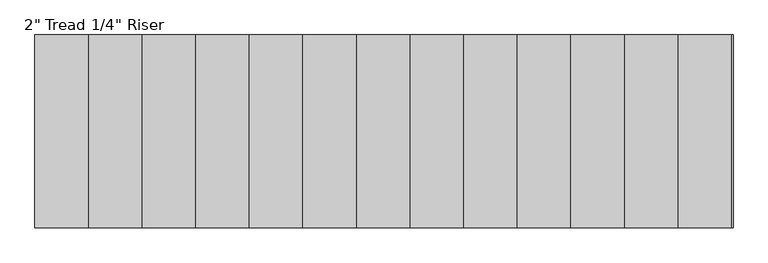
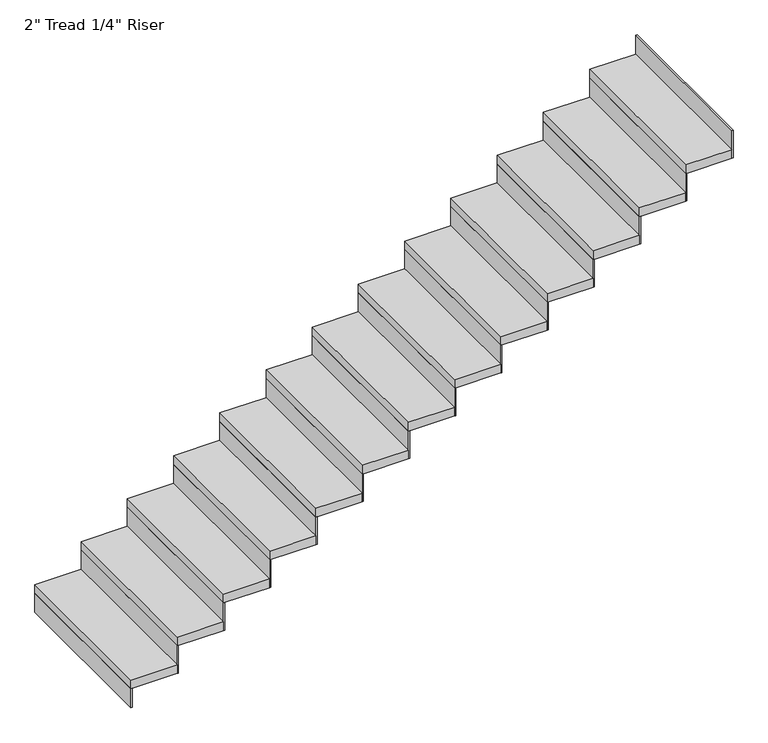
"""IFC4 building model written with IfcOpenShell, lengths in millimetres: stair flight geometry."""

from ifc_helpers import new_model, si_unit, frame, origin, origin_with_axes, place, context, project, spatial, polyline, outline, extrude, source, transform, mapped, element, save


def stair_flight_890952b5(model_context):
    return source(origin(), model_context, "Body", "SweptSolid", [
        extrude(outline(polyline([(85053.1147213, -35524.5173894), (85046.7647213, -35524.5173894), (85046.7647213, -34610.1173894), (85053.1147213, -34610.1173894), (85053.1147213, -35524.5173894)])), origin_with_axes(), (0.0, 0.0, 1.0), 109.6210526),
        extrude(outline(polyline([(85300.7647213, -34610.1173894), (85300.7647213, -35524.5173894), (85046.7647213, -35524.5173894), (85046.7647213, -34610.1173894), (85300.7647213, -34610.1173894)])), frame((0.0, 0.0, 109.6210526), z_axis=(0.0, 0.0, 1.0), x_axis=(1.0, 0.0, 0.0)), (0.0, 0.0, 1.0), 50.8),
        extrude(outline(polyline([(85307.1147213, -35524.5173894), (85300.7647213, -35524.5173894), (85300.7647213, -34610.1173894), (85307.1147213, -34610.1173894), (85307.1147213, -35524.5173894)])), frame((0.0, 0.0, 109.6210526), z_axis=(0.0, 0.0, 1.0), x_axis=(1.0, 0.0, 0.0)), (0.0, 0.0, 1.0), 160.4210526),
        extrude(outline(polyline([(85554.7647213, -34610.1173894), (85554.7647213, -35524.5173894), (85300.7647213, -35524.5173894), (85300.7647213, -34610.1173894), (85554.7647213, -34610.1173894)])), frame((0.0, 0.0, 270.0421053), z_axis=(0.0, 0.0, 1.0), x_axis=(1.0, 0.0, 0.0)), (0.0, 0.0, 1.0), 50.8),
        extrude(outline(polyline([(85561.1147213, -35524.5173894), (85554.7647213, -35524.5173894), (85554.7647213, -34610.1173894), (85561.1147213, -34610.1173894), (85561.1147213, -35524.5173894)])), frame((0.0, 0.0, 270.0421053), z_axis=(0.0, 0.0, 1.0), x_axis=(1.0, 0.0, 0.0)), (0.0, 0.0, 1.0), 160.4210526),
        extrude(outline(polyline([(85808.7647213, -34610.1173894), (85808.7647213, -35524.5173894), (85554.7647213, -35524.5173894), (85554.7647213, -34610.1173894), (85808.7647213, -34610.1173894)])), frame((0.0, 0.0, 430.4631579), z_axis=(0.0, 0.0, 1.0), x_axis=(1.0, 0.0, 0.0)), (0.0, 0.0, 1.0), 50.8),
        extrude(outline(polyline([(85815.1147213, -35524.5173894), (85808.7647213, -35524.5173894), (85808.7647213, -34610.1173894), (85815.1147213, -34610.1173894), (85815.1147213, -35524.5173894)])), frame((0.0, 0.0, 430.4631579), z_axis=(0.0, 0.0, 1.0), x_axis=(1.0, 0.0, 0.0)), (0.0, 0.0, 1.0), 160.4210526),
        extrude(outline(polyline([(86062.7647213, -34610.1173894), (86062.7647213, -35524.5173894), (85808.7647213, -35524.5173894), (85808.7647213, -34610.1173894), (86062.7647213, -34610.1173894)])), frame((0.0, 0.0, 590.8842105), z_axis=(0.0, 0.0, 1.0), x_axis=(1.0, 0.0, 0.0)), (0.0, 0.0, 1.0), 50.8),
        extrude(outline(polyline([(86069.1147213, -35524.5173894), (86062.7647213, -35524.5173894), (86062.7647213, -34610.1173894), (86069.1147213, -34610.1173894), (86069.1147213, -35524.5173894)])), frame((0.0, 0.0, 590.8842105), z_axis=(0.0, 0.0, 1.0), x_axis=(1.0, 0.0, 0.0)), (0.0, 0.0, 1.0), 160.4210526),
        extrude(outline(polyline([(86316.7647213, -34610.1173894), (86316.7647213, -35524.5173894), (86062.7647213, -35524.5173894), (86062.7647213, -34610.1173894), (86316.7647213, -34610.1173894)])), frame((0.0, 0.0, 751.3052632), z_axis=(0.0, 0.0, 1.0), x_axis=(1.0, 0.0, 0.0)), (0.0, 0.0, 1.0), 50.8),
        extrude(outline(polyline([(86323.1147213, -35524.5173894), (86316.7647213, -35524.5173894), (86316.7647213, -34610.1173894), (86323.1147213, -34610.1173894), (86323.1147213, -35524.5173894)])), frame((0.0, 0.0, 751.3052632), z_axis=(0.0, 0.0, 1.0), x_axis=(1.0, 0.0, 0.0)), (0.0, 0.0, 1.0), 160.4210526),
        extrude(outline(polyline([(86570.7647213, -34610.1173894), (86570.7647213, -35524.5173894), (86316.7647213, -35524.5173894), (86316.7647213, -34610.1173894), (86570.7647213, -34610.1173894)])), frame((0.0, 0.0, 911.7263158), z_axis=(0.0, 0.0, 1.0), x_axis=(1.0, 0.0, 0.0)), (0.0, 0.0, 1.0), 50.8),
        extrude(outline(polyline([(86577.1147213, -35524.5173894), (86570.7647213, -35524.5173894), (86570.7647213, -34610.1173894), (86577.1147213, -34610.1173894), (86577.1147213, -35524.5173894)])), frame((0.0, 0.0, 911.7263158), z_axis=(0.0, 0.0, 1.0), x_axis=(1.0, 0.0, 0.0)), (0.0, 0.0, 1.0), 160.4210526),
        extrude(outline(polyline([(86824.7647213, -34610.1173894), (86824.7647213, -35524.5173894), (86570.7647213, -35524.5173894), (86570.7647213, -34610.1173894), (86824.7647213, -34610.1173894)])), frame((0.0, 0.0, 1072.1473684), z_axis=(0.0, 0.0, 1.0), x_axis=(1.0, 0.0, 0.0)), (0.0, 0.0, 1.0), 50.8),
        extrude(outline(polyline([(86831.1147213, -35524.5173894), (86824.7647213, -35524.5173894), (86824.7647213, -34610.1173894), (86831.1147213, -34610.1173894), (86831.1147213, -35524.5173894)])), frame((0.0, 0.0, 1072.1473684), z_axis=(0.0, 0.0, 1.0), x_axis=(1.0, 0.0, 0.0)), (0.0, 0.0, 1.0), 160.4210526),
        extrude(outline(polyline([(87078.7647213, -34610.1173894), (87078.7647213, -35524.5173894), (86824.7647213, -35524.5173894), (86824.7647213, -34610.1173894), (87078.7647213, -34610.1173894)])), frame((0.0, 0.0, 1232.5684211), z_axis=(0.0, 0.0, 1.0), x_axis=(1.0, 0.0, 0.0)), (0.0, 0.0, 1.0), 50.8),
        extrude(outline(polyline([(87085.1147213, -35524.5173894), (87078.7647213, -35524.5173894), (87078.7647213, -34610.1173894), (87085.1147213, -34610.1173894), (87085.1147213, -35524.5173894)])), frame((0.0, 0.0, 1232.5684211), z_axis=(0.0, 0.0, 1.0), x_axis=(1.0, 0.0, 0.0)), (0.0, 0.0, 1.0), 160.4210526),
        extrude(outline(polyline([(87332.7647213, -34610.1173894), (87332.7647213, -35524.5173894), (87078.7647213, -35524.5173894), (87078.7647213, -34610.1173894), (87332.7647213, -34610.1173894)])), frame((0.0, 0.0, 1392.9894737), z_axis=(0.0, 0.0, 1.0), x_axis=(1.0, 0.0, 0.0)), (0.0, 0.0, 1.0), 50.8),
        extrude(outline(polyline([(87339.1147213, -35524.5173894), (87332.7647213, -35524.5173894), (87332.7647213, -34610.1173894), (87339.1147213, -34610.1173894), (87339.1147213, -35524.5173894)])), frame((0.0, 0.0, 1392.9894737), z_axis=(0.0, 0.0, 1.0), x_axis=(1.0, 0.0, 0.0)), (0.0, 0.0, 1.0), 160.4210526),
        extrude(outline(polyline([(87586.7647213, -34610.1173894), (87586.7647213, -35524.5173894), (87332.7647213, -35524.5173894), (87332.7647213, -34610.1173894), (87586.7647213, -34610.1173894)])), frame((0.0, 0.0, 1553.4105263), z_axis=(0.0, 0.0, 1.0), x_axis=(1.0, 0.0, 0.0)), (0.0, 0.0, 1.0), 50.8),
        extrude(outline(polyline([(87593.1147213, -35524.5173894), (87586.7647213, -35524.5173894), (87586.7647213, -34610.1173894), (87593.1147213, -34610.1173894), (87593.1147213, -35524.5173894)])), frame((0.0, 0.0, 1553.4105263), z_axis=(0.0, 0.0, 1.0), x_axis=(1.0, 0.0, 0.0)), (0.0, 0.0, 1.0), 160.4210526),
        extrude(outline(polyline([(87840.7647213, -34610.1173894), (87840.7647213, -35524.5173894), (87586.7647213, -35524.5173894), (87586.7647213, -34610.1173894), (87840.7647213, -34610.1173894)])), frame((0.0, 0.0, 1713.8315789), z_axis=(0.0, 0.0, 1.0), x_axis=(1.0, 0.0, 0.0)), (0.0, 0.0, 1.0), 50.8),
        extrude(outline(polyline([(87847.1147213, -35524.5173894), (87840.7647213, -35524.5173894), (87840.7647213, -34610.1173894), (87847.1147213, -34610.1173894), (87847.1147213, -35524.5173894)])), frame((0.0, 0.0, 1713.8315789), z_axis=(0.0, 0.0, 1.0), x_axis=(1.0, 0.0, 0.0)), (0.0, 0.0, 1.0), 160.4210526),
        extrude(outline(polyline([(88094.7647213, -34610.1173894), (88094.7647213, -35524.5173894), (87840.7647213, -35524.5173894), (87840.7647213, -34610.1173894), (88094.7647213, -34610.1173894)])), frame((0.0, 0.0, 1874.2526316), z_axis=(0.0, 0.0, 1.0), x_axis=(1.0, 0.0, 0.0)), (0.0, 0.0, 1.0), 50.8),
        extrude(outline(polyline([(88101.1147213, -35524.5173894), (88094.7647213, -35524.5173894), (88094.7647213, -34610.1173894), (88101.1147213, -34610.1173894), (88101.1147213, -35524.5173894)])), frame((0.0, 0.0, 1874.2526316), z_axis=(0.0, 0.0, 1.0), x_axis=(1.0, 0.0, 0.0)), (0.0, 0.0, 1.0), 160.4210526),
        extrude(outline(polyline([(88355.1147213, -35524.5173894), (88348.7647213, -35524.5173894), (88348.7647213, -34610.1173894), (88355.1147213, -34610.1173894), (88355.1147213, -35524.5173894)])), frame((0.0, 0.0, 2034.6736842), z_axis=(0.0, 0.0, 1.0), x_axis=(1.0, 0.0, 0.0)), (0.0, 0.0, 1.0), 160.4210526),
        extrude(outline(polyline([(88348.7647213, -34610.1173894), (88348.7647213, -35524.5173894), (88094.7647213, -35524.5173894), (88094.7647213, -34610.1173894), (88348.7647213, -34610.1173894)])), frame((0.0, 0.0, 2034.6736842), z_axis=(0.0, 0.0, 1.0), x_axis=(1.0, 0.0, 0.0)), (0.0, 0.0, 1.0), 50.8),
    ])


if __name__ == "__main__":
    model = new_model("IFC4")
    model_context = context("Model", 3, world=origin())
    ifc_project = project(units=[si_unit("LENGTHUNIT", "METRE", prefix="MILLI")], contexts=[model_context])
    site = spatial("IfcSite", under=ifc_project)
    building = spatial("IfcBuilding", under=site)
    placement = place(None, origin())
    stair_flight_shape = stair_flight_890952b5(model_context)
    element("IfcStairFlight", 1, ObjectType="2\" Tread 1/4\" Riser", at=placement, inside=building, context=model_context, shape_type="MappedRepresentation", body=[
        mapped(stair_flight_shape, transform((0.0, 0.0, 0.0), x_axis=(1.0, 0.0, 0.0), y_axis=(0.0, 1.0, 0.0), z_axis=(0.0, 0.0, 1.0))),
    ])
    save(model, "model.ifc")
